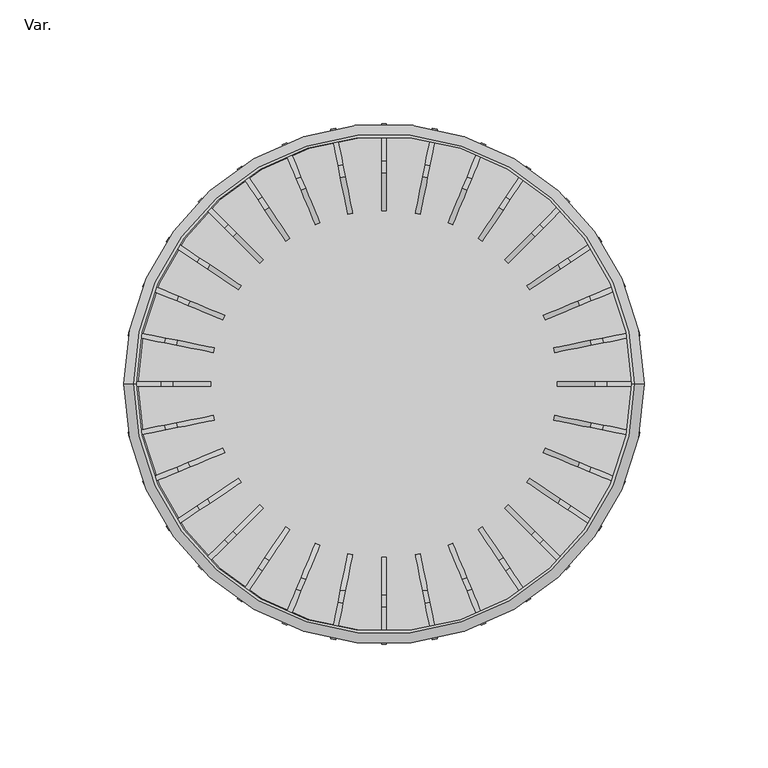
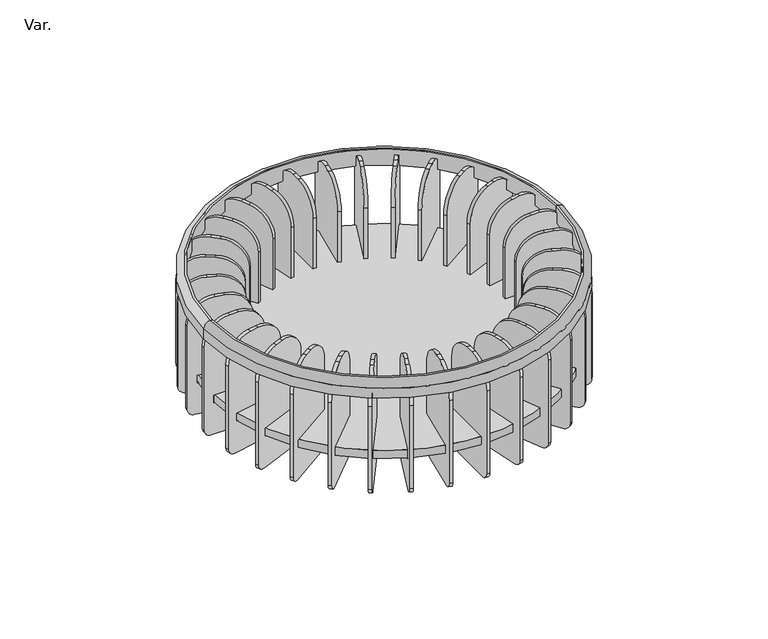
"""IFC4 building model written with IfcOpenShell, lengths in millimetres: sanitary terminal geometry, AmancoWavin_AquipamentosHidráulicos_QSBocaldeCaptação : Var.."""

from ifc_helpers import new_model, si_unit, point, frame, frame_2d, origin, place, context, project, spatial, polyline, circle_curve, ellipse_curve, trimmed, segment, composite_curve, outline, extrude, source, transform, mapped, element, save
from ifc_brep_helpers import plane_surface, cylinder_surface, revolved_surface, advanced_brep


def var_ffde15c7(model_context):
    return source(origin(), model_context, "Body", "SolidModel", [
        extrude(outline(composite_curve([segment(trimmed(circle_curve(frame_2d((0.0, -4.0)), 4.0), [point((-4.0, -4.0))], [point((0.0, 0.0))], False, "CARTESIAN"), True, "CONTINUOUS"), segment(polyline([(0.0, 0.0), (15.0, 0.0), (15.0, -29.9999999), (20.0, -29.9999999), (20.0, 0.0), (51.0, 0.0)]), True, "CONTINUOUS"), segment(trimmed(circle_curve(frame_2d((51.0, -15.0)), 15.0), [point((51.0, 0.0))], [point((66.0, -15.0))], False, "CARTESIAN"), True, "CONTINUOUS"), segment(polyline([(66.0, -15.0), (66.0, -20.0)]), True, "CONTINUOUS"), segment(trimmed(circle_curve(frame_2d((51.0, -20.0)), 15.0), [point((66.0, -20.0))], [point((51.0, -34.9999999))], False, "CARTESIAN"), True, "CONTINUOUS"), segment(polyline([(51.0, -34.9999999), (0.0, -34.9999999)]), True, "CONTINUOUS"), segment(trimmed(circle_curve(frame_2d((0.0, -31.0)), 4.0), [point((0.0, -34.9999999))], [point((-4.0, -31.0))], False, "CARTESIAN"), True, "CONTINUOUS"), segment(polyline([(-4.0, -31.0), (-4.0, -4.0)]), True, "CONTINUOUS")], self_intersect=False)), frame((-50.2045815, 48.7903679, 5.5), z_axis=(0.7071067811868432, 0.7071067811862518, 0.0), x_axis=(0.0, 0.0, 1.0)), (0.0, 0.0, 1.0), 2.0),
        extrude(outline(composite_curve([segment(trimmed(circle_curve(frame_2d((0.0, -3.9999999)), 4.0), [point((-4.0, -3.9999999))], [point((0.0, 0.0))], False, "CARTESIAN"), True, "CONTINUOUS"), segment(polyline([(0.0, 0.0), (15.0, 0.0), (15.0, -30.0), (20.0, -30.0), (20.0, 0.0), (51.0, 0.0)]), True, "CONTINUOUS"), segment(trimmed(circle_curve(frame_2d((51.0, -15.0)), 15.0), [point((51.0, 0.0))], [point((66.0, -15.0))], False, "CARTESIAN"), True, "CONTINUOUS"), segment(polyline([(66.0, -15.0), (66.0, -20.0)]), True, "CONTINUOUS"), segment(trimmed(circle_curve(frame_2d((51.0, -20.0)), 15.0), [point((66.0, -20.0))], [point((51.0, -35.0))], False, "CARTESIAN"), True, "CONTINUOUS"), segment(polyline([(51.0, -35.0), (0.0, -35.0)]), True, "CONTINUOUS"), segment(trimmed(circle_curve(frame_2d((0.0, -31.0)), 4.0), [point((0.0, -35.0))], [point((-4.0, -31.0))], False, "CARTESIAN"), True, "CONTINUOUS"), segment(polyline([(-4.0, -31.0), (-4.0, -3.9999999)]), True, "CONTINUOUS")], self_intersect=False)), frame((-58.7584431, 38.0584467, 5.5), z_axis=(0.5555702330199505, 0.8314696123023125, 0.0), x_axis=(0.0, 0.0, 1.0)), (0.0, 0.0, 1.0), 2.0),
        extrude(outline(composite_curve([segment(trimmed(circle_curve(frame_2d((0.0, -4.0000001)), 4.0), [point((-4.0, -4.0000001))], [point((0.0, 0.0))], False, "CARTESIAN"), True, "CONTINUOUS"), segment(polyline([(0.0, 0.0), (15.0, 0.0), (15.0, -30.0), (20.0, -30.0), (20.0, 0.0), (51.0, 0.0)]), True, "CONTINUOUS"), segment(trimmed(circle_curve(frame_2d((51.0, -15.0)), 15.0), [point((51.0, 0.0))], [point((66.0, -15.0))], False, "CARTESIAN"), True, "CONTINUOUS"), segment(polyline([(66.0, -15.0), (66.0, -20.0000001)]), True, "CONTINUOUS"), segment(trimmed(circle_curve(frame_2d((51.0, -20.0000001)), 15.0), [point((66.0, -20.0000001))], [point((51.0, -35.0000001))], False, "CARTESIAN"), True, "CONTINUOUS"), segment(polyline([(51.0, -35.0000001), (0.0, -35.0000001)]), True, "CONTINUOUS"), segment(trimmed(circle_curve(frame_2d((0.0, -31.0)), 4.0), [point((0.0, -35.0000001))], [point((-4.0, -31.0))], False, "CARTESIAN"), True, "CONTINUOUS"), segment(polyline([(-4.0, -31.0), (-4.0, -4.0000001)]), True, "CONTINUOUS")], self_intersect=False)), frame((-39.7213859, 57.6473026, 5.5), z_axis=(0.8314696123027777, 0.5555702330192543, 0.0), x_axis=(0.0, 0.0, 1.0)), (0.0, 0.0, 1.0), 2.0),
        extrude(outline(composite_curve([segment(trimmed(circle_curve(frame_2d((0.0, -4.0000001)), 4.0), [point((-4.0, -4.0000001))], [point((0.0, 0.0))], False, "CARTESIAN"), True, "CONTINUOUS"), segment(polyline([(0.0, 0.0), (15.0, 0.0), (15.0, -30.0), (20.0, -30.0), (20.0, 0.0), (51.0, 0.0)]), True, "CONTINUOUS"), segment(trimmed(circle_curve(frame_2d((51.0, -15.0)), 15.0), [point((51.0, 0.0))], [point((66.0, -15.0))], False, "CARTESIAN"), True, "CONTINUOUS"), segment(polyline([(66.0, -15.0), (66.0, -20.0)]), True, "CONTINUOUS"), segment(trimmed(circle_curve(frame_2d((51.0, -20.0)), 15.0), [point((66.0, -20.0))], [point((51.0, -35.0))], False, "CARTESIAN"), True, "CONTINUOUS"), segment(polyline([(51.0, -35.0), (0.0, -35.0)]), True, "CONTINUOUS"), segment(trimmed(circle_curve(frame_2d((0.0, -31.0000001)), 4.0), [point((0.0, -35.0))], [point((-4.0, -31.0000001))], False, "CARTESIAN"), True, "CONTINUOUS"), segment(polyline([(-4.0, -31.0000001), (-4.0, -4.0000001)]), True, "CONTINUOUS")], self_intersect=False)), frame((-27.7117198, 64.2888838, 5.5), z_axis=(0.9238795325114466, 0.3826834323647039, 0.0), x_axis=(0.0, 0.0, 1.0)), (0.0, 0.0, 1.0), 2.0),
        extrude(outline(composite_curve([segment(trimmed(circle_curve(frame_2d((0.0, -4.0)), 4.0), [point((-4.0, -4.0))], [point((0.0, 0.0))], False, "CARTESIAN"), True, "CONTINUOUS"), segment(polyline([(0.0, 0.0), (15.0, 0.0), (15.0, -30.0), (20.0, -30.0), (20.0, 0.0), (51.0, 0.0)]), True, "CONTINUOUS"), segment(trimmed(circle_curve(frame_2d((51.0, -15.0)), 15.0), [point((51.0, 0.0))], [point((66.0, -15.0))], False, "CARTESIAN"), True, "CONTINUOUS"), segment(polyline([(66.0, -15.0), (66.0, -20.0)]), True, "CONTINUOUS"), segment(trimmed(circle_curve(frame_2d((51.0, -20.0)), 15.0), [point((66.0, -20.0))], [point((51.0, -35.0))], False, "CARTESIAN"), True, "CONTINUOUS"), segment(polyline([(51.0, -35.0), (0.0, -35.0)]), True, "CONTINUOUS"), segment(trimmed(circle_curve(frame_2d((0.0, -31.0)), 4.0), [point((0.0, -35.0))], [point((-4.0, -31.0))], False, "CARTESIAN"), True, "CONTINUOUS"), segment(polyline([(-4.0, -31.0), (-4.0, -4.0)]), True, "CONTINUOUS")], self_intersect=False)), frame((-14.6371078, 68.4598793, 5.5), z_axis=(0.980785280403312, 0.19509032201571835, 0.0), x_axis=(0.0, 0.0, 1.0)), (0.0, 0.0, 1.0), 2.0),
        extrude(outline(composite_curve([segment(trimmed(circle_curve(frame_2d((74.0, 5.5)), 4.0), [point((74.0, 1.5))], [point((70.0, 5.5))], False, "CARTESIAN"), True, "CONTINUOUS"), segment(polyline([(70.0, 5.5), (70.0, 20.5), (100.0, 20.5), (100.0, 25.5), (70.0, 25.5), (70.0, 56.5)]), True, "CONTINUOUS"), segment(trimmed(circle_curve(frame_2d((85.0, 56.5)), 15.0), [point((70.0, 56.5))], [point((85.0, 71.5))], False, "CARTESIAN"), True, "CONTINUOUS"), segment(polyline([(85.0, 71.5), (90.0, 71.5)]), True, "CONTINUOUS"), segment(trimmed(circle_curve(frame_2d((90.0, 56.5)), 15.0), [point((90.0, 71.5))], [point((105.0, 56.5))], False, "CARTESIAN"), True, "CONTINUOUS"), segment(polyline([(105.0, 56.5), (105.0, 5.5)]), True, "CONTINUOUS"), segment(trimmed(circle_curve(frame_2d((101.0, 5.5)), 4.0), [point((105.0, 5.5))], [point((101.0, 1.5))], False, "CARTESIAN"), True, "CONTINUOUS"), segment(polyline([(101.0, 1.5), (74.0, 1.5)]), True, "CONTINUOUS")], self_intersect=False)), frame((-1.0, 0.0, 0.0), z_axis=(1.0, 0.0, 0.0), x_axis=(0.0, 1.0, 0.0)), (0.0, 0.0, 1.0), 2.0),
        extrude(outline(composite_curve([segment(polyline([(4.0, -4.0), (4.0, -31.0)]), True, "CONTINUOUS"), segment(trimmed(circle_curve(frame_2d((0.0, -31.0)), 4.0), [point((4.0, -31.0))], [point((0.0, -35.0))], False, "CARTESIAN"), True, "CONTINUOUS"), segment(polyline([(0.0, -35.0), (-51.0, -35.0)]), True, "CONTINUOUS"), segment(trimmed(circle_curve(frame_2d((-51.0, -20.0)), 15.0), [point((-51.0, -35.0))], [point((-66.0, -20.0))], False, "CARTESIAN"), True, "CONTINUOUS"), segment(polyline([(-66.0, -20.0), (-66.0, -15.0)]), True, "CONTINUOUS"), segment(trimmed(circle_curve(frame_2d((-51.0, -15.0)), 15.0), [point((-66.0, -15.0))], [point((-51.0, 0.0))], False, "CARTESIAN"), True, "CONTINUOUS"), segment(polyline([(-51.0, 0.0), (-20.0, 0.0), (-20.0, -30.0), (-15.0, -30.0), (-15.0, 0.0), (0.0, 0.0)]), True, "CONTINUOUS"), segment(trimmed(circle_curve(frame_2d((0.0, -4.0)), 4.0), [point((0.0, 0.0))], [point((4.0, -4.0))], False, "CARTESIAN"), True, "CONTINUOUS")], self_intersect=False)), frame((14.6371078, 68.4598793, 5.5), z_axis=(-0.9807852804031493, 0.19509032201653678, 0.0), x_axis=(0.0, 0.0, -1.0)), (0.0, 0.0, 1.0), 2.0),
        extrude(outline(composite_curve([segment(polyline([(4.0, -4.0000001), (4.0, -31.0000001)]), True, "CONTINUOUS"), segment(trimmed(circle_curve(frame_2d((0.0, -31.0000001)), 4.0), [point((4.0, -31.0000001))], [point((0.0, -35.0))], False, "CARTESIAN"), True, "CONTINUOUS"), segment(polyline([(0.0, -35.0), (-51.0, -35.0)]), True, "CONTINUOUS"), segment(trimmed(circle_curve(frame_2d((-51.0, -20.0)), 15.0), [point((-51.0, -35.0))], [point((-66.0, -20.0))], False, "CARTESIAN"), True, "CONTINUOUS"), segment(polyline([(-66.0, -20.0), (-66.0, -15.0)]), True, "CONTINUOUS"), segment(trimmed(circle_curve(frame_2d((-51.0, -15.0)), 15.0), [point((-66.0, -15.0))], [point((-51.0, 0.0))], False, "CARTESIAN"), True, "CONTINUOUS"), segment(polyline([(-51.0, 0.0), (-20.0, 0.0), (-20.0, -30.0), (-15.0, -30.0), (-15.0, 0.0), (0.0, 0.0)]), True, "CONTINUOUS"), segment(trimmed(circle_curve(frame_2d((0.0, -4.0000001)), 4.0), [point((0.0, 0.0))], [point((4.0, -4.0000001))], False, "CARTESIAN"), True, "CONTINUOUS")], self_intersect=False)), frame((27.7117198, 64.2888838, 5.5), z_axis=(-0.9238795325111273, 0.38268343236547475, 0.0), x_axis=(0.0, 0.0, -1.0)), (0.0, 0.0, 1.0), 2.0),
        extrude(outline(composite_curve([segment(polyline([(4.0, -4.0000001), (4.0, -31.0)]), True, "CONTINUOUS"), segment(trimmed(circle_curve(frame_2d((0.0, -31.0)), 4.0), [point((4.0, -31.0))], [point((0.0, -35.0000001))], False, "CARTESIAN"), True, "CONTINUOUS"), segment(polyline([(0.0, -35.0000001), (-51.0, -35.0000001)]), True, "CONTINUOUS"), segment(trimmed(circle_curve(frame_2d((-51.0, -20.0000001)), 15.0), [point((-51.0, -35.0000001))], [point((-66.0, -20.0000001))], False, "CARTESIAN"), True, "CONTINUOUS"), segment(polyline([(-66.0, -20.0000001), (-66.0, -15.0)]), True, "CONTINUOUS"), segment(trimmed(circle_curve(frame_2d((-51.0, -15.0)), 15.0), [point((-66.0, -15.0))], [point((-51.0, 0.0))], False, "CARTESIAN"), True, "CONTINUOUS"), segment(polyline([(-51.0, 0.0), (-20.0, 0.0), (-20.0, -30.0), (-15.0, -30.0), (-15.0, 0.0), (0.0, 0.0)]), True, "CONTINUOUS"), segment(trimmed(circle_curve(frame_2d((0.0, -4.0000001)), 4.0), [point((0.0, 0.0))], [point((4.0, -4.0000001))], False, "CARTESIAN"), True, "CONTINUOUS")], self_intersect=False)), frame((39.7213859, 57.6473026, 5.5), z_axis=(-0.8314696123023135, 0.5555702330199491, 0.0), x_axis=(0.0, 0.0, -1.0)), (0.0, 0.0, 1.0), 2.0),
        extrude(outline(composite_curve([segment(polyline([(4.0, -4.0), (4.0, -31.0)]), True, "CONTINUOUS"), segment(trimmed(circle_curve(frame_2d((0.0, -31.0)), 4.0), [point((4.0, -31.0))], [point((0.0, -34.9999999))], False, "CARTESIAN"), True, "CONTINUOUS"), segment(polyline([(0.0, -34.9999999), (-51.0, -34.9999999)]), True, "CONTINUOUS"), segment(trimmed(circle_curve(frame_2d((-51.0, -20.0)), 15.0), [point((-51.0, -34.9999999))], [point((-66.0, -20.0))], False, "CARTESIAN"), True, "CONTINUOUS"), segment(polyline([(-66.0, -20.0), (-66.0, -15.0)]), True, "CONTINUOUS"), segment(trimmed(circle_curve(frame_2d((-51.0, -15.0)), 15.0), [point((-66.0, -15.0))], [point((-51.0, 0.0))], False, "CARTESIAN"), True, "CONTINUOUS"), segment(polyline([(-51.0, 0.0), (-20.0, 0.0), (-20.0, -29.9999999), (-15.0, -29.9999999), (-15.0, 0.0), (0.0, 0.0)]), True, "CONTINUOUS"), segment(trimmed(circle_curve(frame_2d((0.0, -4.0)), 4.0), [point((0.0, 0.0))], [point((4.0, -4.0))], False, "CARTESIAN"), True, "CONTINUOUS")], self_intersect=False)), frame((50.2045815, 48.7903679, 5.5), z_axis=(-0.7071067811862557, 0.7071067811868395, 0.0), x_axis=(0.0, 0.0, -1.0)), (0.0, 0.0, 1.0), 2.0),
        extrude(outline(composite_curve([segment(polyline([(4.0, -3.9999999), (4.0, -31.0)]), True, "CONTINUOUS"), segment(trimmed(circle_curve(frame_2d((0.0, -31.0)), 4.0), [point((4.0, -31.0))], [point((0.0, -35.0))], False, "CARTESIAN"), True, "CONTINUOUS"), segment(polyline([(0.0, -35.0), (-51.0, -35.0)]), True, "CONTINUOUS"), segment(trimmed(circle_curve(frame_2d((-51.0, -20.0)), 15.0), [point((-51.0, -35.0))], [point((-66.0, -20.0))], False, "CARTESIAN"), True, "CONTINUOUS"), segment(polyline([(-66.0, -20.0), (-66.0, -15.0)]), True, "CONTINUOUS"), segment(trimmed(circle_curve(frame_2d((-51.0, -15.0)), 15.0), [point((-66.0, -15.0))], [point((-51.0, 0.0))], False, "CARTESIAN"), True, "CONTINUOUS"), segment(polyline([(-51.0, 0.0), (-20.0, 0.0), (-20.0, -30.0), (-15.0, -30.0), (-15.0, 0.0), (0.0, 0.0)]), True, "CONTINUOUS"), segment(trimmed(circle_curve(frame_2d((0.0, -3.9999999)), 4.0), [point((0.0, 0.0))], [point((4.0, -3.9999999))], False, "CARTESIAN"), True, "CONTINUOUS")], self_intersect=False)), frame((58.7584431, 38.0584467, 5.5), z_axis=(-0.5555702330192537, 0.8314696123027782, 0.0), x_axis=(0.0, 0.0, -1.0)), (0.0, 0.0, 1.0), 2.0),
        extrude(outline(composite_curve([segment(polyline([(4.0, -4.0), (4.0, -31.0)]), True, "CONTINUOUS"), segment(trimmed(circle_curve(frame_2d((0.0, -31.0)), 4.0), [point((4.0, -31.0))], [point((0.0, -35.0))], False, "CARTESIAN"), True, "CONTINUOUS"), segment(polyline([(0.0, -35.0), (-51.0, -35.0)]), True, "CONTINUOUS"), segment(trimmed(circle_curve(frame_2d((-51.0, -20.0000001)), 15.0), [point((-51.0, -35.0))], [point((-66.0, -20.0000001))], False, "CARTESIAN"), True, "CONTINUOUS"), segment(polyline([(-66.0, -20.0000001), (-66.0, -15.0)]), True, "CONTINUOUS"), segment(trimmed(circle_curve(frame_2d((-51.0, -15.0)), 15.0), [point((-66.0, -15.0))], [point((-51.0, 0.0))], False, "CARTESIAN"), True, "CONTINUOUS"), segment(polyline([(-51.0, 0.0), (-20.0, 0.0), (-20.0, -30.0), (-15.0, -30.0), (-15.0, 0.0), (0.0, 0.0)]), True, "CONTINUOUS"), segment(trimmed(circle_curve(frame_2d((0.0, -4.0)), 4.0), [point((0.0, 0.0))], [point((4.0, -4.0))], False, "CARTESIAN"), True, "CONTINUOUS")], self_intersect=False)), frame((65.0542507, 25.8639607, 5.5), z_axis=(-0.38268343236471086, 0.9238795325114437, 0.0), x_axis=(0.0, 0.0, -1.0)), (0.0, 0.0, 1.0), 2.0),
        extrude(outline(composite_curve([segment(polyline([(4.0, -4.0), (4.0, -30.9999999)]), True, "CONTINUOUS"), segment(trimmed(circle_curve(frame_2d((0.0, -30.9999999)), 4.0), [point((4.0, -30.9999999))], [point((0.0, -35.0))], False, "CARTESIAN"), True, "CONTINUOUS"), segment(polyline([(0.0, -35.0), (-51.0, -35.0)]), True, "CONTINUOUS"), segment(trimmed(circle_curve(frame_2d((-51.0, -20.0)), 15.0), [point((-51.0, -35.0))], [point((-66.0, -20.0))], False, "CARTESIAN"), True, "CONTINUOUS"), segment(polyline([(-66.0, -20.0), (-66.0, -15.0)]), True, "CONTINUOUS"), segment(trimmed(circle_curve(frame_2d((-51.0, -15.0)), 15.0), [point((-66.0, -15.0))], [point((-51.0, 0.0))], False, "CARTESIAN"), True, "CONTINUOUS"), segment(polyline([(-51.0, 0.0), (-20.0, 0.0), (-20.0, -30.0), (-15.0, -30.0), (-15.0, 0.0), (0.0, 0.0)]), True, "CONTINUOUS"), segment(trimmed(circle_curve(frame_2d((0.0, -4.0)), 4.0), [point((0.0, 0.0))], [point((4.0, -4.0))], False, "CARTESIAN"), True, "CONTINUOUS")], self_intersect=False)), frame((68.85006, 12.6755373, 5.5), z_axis=(-0.19509032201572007, 0.9807852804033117, 0.0), x_axis=(0.0, 0.0, -1.0)), (0.0, 0.0, 1.0), 2.0),
        extrude(outline(composite_curve([segment(polyline([(1.5, 74.0), (1.5, 101.0)]), True, "CONTINUOUS"), segment(trimmed(circle_curve(frame_2d((5.5, 101.0)), 4.0), [point((1.5, 101.0))], [point((5.5, 105.0))], False, "CARTESIAN"), True, "CONTINUOUS"), segment(polyline([(5.5, 105.0), (56.5, 105.0)]), True, "CONTINUOUS"), segment(trimmed(circle_curve(frame_2d((56.5, 90.0)), 15.0), [point((56.5, 105.0))], [point((71.5, 90.0))], False, "CARTESIAN"), True, "CONTINUOUS"), segment(polyline([(71.5, 90.0), (71.5, 85.0)]), True, "CONTINUOUS"), segment(trimmed(circle_curve(frame_2d((56.5, 85.0)), 15.0), [point((71.5, 85.0))], [point((56.5, 70.0))], False, "CARTESIAN"), True, "CONTINUOUS"), segment(polyline([(56.5, 70.0), (25.5, 70.0), (25.5, 100.0), (20.5, 100.0), (20.5, 70.0), (5.5, 70.0)]), True, "CONTINUOUS"), segment(trimmed(circle_curve(frame_2d((5.5, 74.0)), 4.0), [point((5.5, 70.0))], [point((1.5, 74.0))], False, "CARTESIAN"), True, "CONTINUOUS")], self_intersect=False)), frame((0.0, -1.0, 0.0), z_axis=(0.0, 1.0, 0.0), x_axis=(0.0, 0.0, 1.0)), (0.0, 0.0, 1.0), 2.0),
        extrude(outline(composite_curve([segment(polyline([(4.0, -4.0), (4.0, -31.0)]), True, "CONTINUOUS"), segment(trimmed(circle_curve(frame_2d((0.0, -31.0)), 4.0), [point((4.0, -31.0))], [point((0.0, -35.0))], False, "CARTESIAN"), True, "CONTINUOUS"), segment(polyline([(0.0, -35.0), (-51.0, -35.0)]), True, "CONTINUOUS"), segment(trimmed(circle_curve(frame_2d((-51.0, -20.0)), 15.0), [point((-51.0, -35.0))], [point((-66.0, -20.0))], False, "CARTESIAN"), True, "CONTINUOUS"), segment(polyline([(-66.0, -20.0), (-66.0, -15.0)]), True, "CONTINUOUS"), segment(trimmed(circle_curve(frame_2d((-51.0, -15.0)), 15.0), [point((-66.0, -15.0))], [point((-51.0, 0.0))], False, "CARTESIAN"), True, "CONTINUOUS"), segment(polyline([(-51.0, 0.0), (-20.0, 0.0), (-20.0, -30.0), (-15.0, -30.0), (-15.0, 0.0), (0.0, 0.0)]), True, "CONTINUOUS"), segment(trimmed(circle_curve(frame_2d((0.0, -4.0)), 4.0), [point((0.0, 0.0))], [point((4.0, -4.0))], False, "CARTESIAN"), True, "CONTINUOUS")], self_intersect=False)), frame((68.4598793, -14.6371078, 5.5), z_axis=(0.19509032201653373, 0.9807852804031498, 0.0), x_axis=(0.0, 0.0, -1.0)), (0.0, 0.0, 1.0), 2.0),
        extrude(outline(composite_curve([segment(polyline([(4.0, -4.0000001), (4.0, -31.0000001)]), True, "CONTINUOUS"), segment(trimmed(circle_curve(frame_2d((0.0, -31.0000001)), 4.0), [point((4.0, -31.0000001))], [point((0.0, -35.0))], False, "CARTESIAN"), True, "CONTINUOUS"), segment(polyline([(0.0, -35.0), (-51.0, -35.0)]), True, "CONTINUOUS"), segment(trimmed(circle_curve(frame_2d((-51.0, -20.0)), 15.0), [point((-51.0, -35.0))], [point((-66.0, -20.0))], False, "CARTESIAN"), True, "CONTINUOUS"), segment(polyline([(-66.0, -20.0), (-66.0, -15.0)]), True, "CONTINUOUS"), segment(trimmed(circle_curve(frame_2d((-51.0, -15.0)), 15.0), [point((-66.0, -15.0))], [point((-51.0, 0.0))], False, "CARTESIAN"), True, "CONTINUOUS"), segment(polyline([(-51.0, 0.0), (-20.0, 0.0), (-20.0, -30.0), (-15.0, -30.0), (-15.0, 0.0), (0.0, 0.0)]), True, "CONTINUOUS"), segment(trimmed(circle_curve(frame_2d((0.0, -4.0000001)), 4.0), [point((0.0, 0.0))], [point((4.0, -4.0000001))], False, "CARTESIAN"), True, "CONTINUOUS")], self_intersect=False)), frame((64.2888838, -27.7117198, 5.5), z_axis=(0.3826834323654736, 0.9238795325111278, 0.0), x_axis=(0.0, 0.0, -1.0)), (0.0, 0.0, 1.0), 2.0),
        extrude(outline(composite_curve([segment(polyline([(4.0, -4.0000001), (4.0, -31.0)]), True, "CONTINUOUS"), segment(trimmed(circle_curve(frame_2d((0.0, -31.0)), 4.0), [point((4.0, -31.0))], [point((0.0, -35.0000001))], False, "CARTESIAN"), True, "CONTINUOUS"), segment(polyline([(0.0, -35.0000001), (-51.0, -35.0000001)]), True, "CONTINUOUS"), segment(trimmed(circle_curve(frame_2d((-51.0, -20.0000001)), 15.0), [point((-51.0, -35.0000001))], [point((-66.0, -20.0000001))], False, "CARTESIAN"), True, "CONTINUOUS"), segment(polyline([(-66.0, -20.0000001), (-66.0, -15.0)]), True, "CONTINUOUS"), segment(trimmed(circle_curve(frame_2d((-51.0, -15.0)), 15.0), [point((-66.0, -15.0))], [point((-51.0, 0.0))], False, "CARTESIAN"), True, "CONTINUOUS"), segment(polyline([(-51.0, 0.0), (-20.0, 0.0), (-20.0, -30.0), (-15.0, -30.0), (-15.0, 0.0), (0.0, 0.0)]), True, "CONTINUOUS"), segment(trimmed(circle_curve(frame_2d((0.0, -4.0000001)), 4.0), [point((0.0, 0.0))], [point((4.0, -4.0000001))], False, "CARTESIAN"), True, "CONTINUOUS")], self_intersect=False)), frame((57.6473026, -39.7213859, 5.5), z_axis=(0.5555702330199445, 0.8314696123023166, 0.0), x_axis=(0.0, 0.0, -1.0)), (0.0, 0.0, 1.0), 2.0),
        extrude(outline(composite_curve([segment(polyline([(4.0, -4.0), (4.0, -31.0)]), True, "CONTINUOUS"), segment(trimmed(circle_curve(frame_2d((0.0, -31.0)), 4.0), [point((4.0, -31.0))], [point((0.0, -34.9999999))], False, "CARTESIAN"), True, "CONTINUOUS"), segment(polyline([(0.0, -34.9999999), (-51.0, -34.9999999)]), True, "CONTINUOUS"), segment(trimmed(circle_curve(frame_2d((-51.0, -20.0)), 15.0), [point((-51.0, -34.9999999))], [point((-66.0, -20.0))], False, "CARTESIAN"), True, "CONTINUOUS"), segment(polyline([(-66.0, -20.0), (-66.0, -15.0)]), True, "CONTINUOUS"), segment(trimmed(circle_curve(frame_2d((-51.0, -15.0)), 15.0), [point((-66.0, -15.0))], [point((-51.0, 0.0))], False, "CARTESIAN"), True, "CONTINUOUS"), segment(polyline([(-51.0, 0.0), (-20.0, 0.0), (-20.0, -29.9999999), (-15.0, -29.9999999), (-15.0, 0.0), (0.0, 0.0)]), True, "CONTINUOUS"), segment(trimmed(circle_curve(frame_2d((0.0, -4.0)), 4.0), [point((0.0, 0.0))], [point((4.0, -4.0))], False, "CARTESIAN"), True, "CONTINUOUS")], self_intersect=False)), frame((48.7903679, -50.2045815, 5.5), z_axis=(0.7071067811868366, 0.7071067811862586, 0.0), x_axis=(0.0, 0.0, -1.0)), (0.0, 0.0, 1.0), 2.0),
        extrude(outline(composite_curve([segment(polyline([(4.0, -3.9999999), (4.0, -31.0)]), True, "CONTINUOUS"), segment(trimmed(circle_curve(frame_2d((0.0, -31.0)), 4.0), [point((4.0, -31.0))], [point((0.0, -35.0))], False, "CARTESIAN"), True, "CONTINUOUS"), segment(polyline([(0.0, -35.0), (-51.0, -35.0)]), True, "CONTINUOUS"), segment(trimmed(circle_curve(frame_2d((-51.0, -20.0)), 15.0), [point((-51.0, -35.0))], [point((-66.0, -20.0))], False, "CARTESIAN"), True, "CONTINUOUS"), segment(polyline([(-66.0, -20.0), (-66.0, -15.0)]), True, "CONTINUOUS"), segment(trimmed(circle_curve(frame_2d((-51.0, -15.0)), 15.0), [point((-66.0, -15.0))], [point((-51.0, 0.0))], False, "CARTESIAN"), True, "CONTINUOUS"), segment(polyline([(-51.0, 0.0), (-20.0, 0.0), (-20.0, -30.0), (-15.0, -30.0), (-15.0, 0.0), (0.0, 0.0)]), True, "CONTINUOUS"), segment(trimmed(circle_curve(frame_2d((0.0, -3.9999999)), 4.0), [point((0.0, 0.0))], [point((4.0, -3.9999999))], False, "CARTESIAN"), True, "CONTINUOUS")], self_intersect=False)), frame((38.0584467, -58.7584431, 5.5), z_axis=(0.8314696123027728, 0.5555702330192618, 0.0), x_axis=(0.0, 0.0, -1.0)), (0.0, 0.0, 1.0), 2.0),
        extrude(outline(composite_curve([segment(polyline([(4.0, -4.0), (4.0, -31.0)]), True, "CONTINUOUS"), segment(trimmed(circle_curve(frame_2d((0.0, -31.0)), 4.0), [point((4.0, -31.0))], [point((0.0, -35.0))], False, "CARTESIAN"), True, "CONTINUOUS"), segment(polyline([(0.0, -35.0), (-51.0, -35.0)]), True, "CONTINUOUS"), segment(trimmed(circle_curve(frame_2d((-51.0, -20.0000001)), 15.0), [point((-51.0, -35.0))], [point((-66.0, -20.0000001))], False, "CARTESIAN"), True, "CONTINUOUS"), segment(polyline([(-66.0, -20.0000001), (-66.0, -15.0)]), True, "CONTINUOUS"), segment(trimmed(circle_curve(frame_2d((-51.0, -15.0)), 15.0), [point((-66.0, -15.0))], [point((-51.0, 0.0))], False, "CARTESIAN"), True, "CONTINUOUS"), segment(polyline([(-51.0, 0.0), (-20.0, 0.0), (-20.0, -30.0), (-15.0, -30.0), (-15.0, 0.0), (0.0, 0.0)]), True, "CONTINUOUS"), segment(trimmed(circle_curve(frame_2d((0.0, -4.0)), 4.0), [point((0.0, 0.0))], [point((4.0, -4.0))], False, "CARTESIAN"), True, "CONTINUOUS")], self_intersect=False)), frame((25.8639607, -65.0542507, 5.5), z_axis=(0.9238795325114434, 0.38268343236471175, 0.0), x_axis=(0.0, 0.0, -1.0)), (0.0, 0.0, 1.0), 2.0),
        extrude(outline(composite_curve([segment(polyline([(4.0, -4.0), (4.0, -30.9999999)]), True, "CONTINUOUS"), segment(trimmed(circle_curve(frame_2d((0.0, -30.9999999)), 4.0), [point((4.0, -30.9999999))], [point((0.0, -35.0))], False, "CARTESIAN"), True, "CONTINUOUS"), segment(polyline([(0.0, -35.0), (-51.0, -35.0)]), True, "CONTINUOUS"), segment(trimmed(circle_curve(frame_2d((-51.0, -20.0)), 15.0), [point((-51.0, -35.0))], [point((-66.0, -20.0))], False, "CARTESIAN"), True, "CONTINUOUS"), segment(polyline([(-66.0, -20.0), (-66.0, -15.0)]), True, "CONTINUOUS"), segment(trimmed(circle_curve(frame_2d((-51.0, -15.0)), 15.0), [point((-66.0, -15.0))], [point((-51.0, 0.0))], False, "CARTESIAN"), True, "CONTINUOUS"), segment(polyline([(-51.0, 0.0), (-20.0, 0.0), (-20.0, -30.0), (-15.0, -30.0), (-15.0, 0.0), (0.0, 0.0)]), True, "CONTINUOUS"), segment(trimmed(circle_curve(frame_2d((0.0, -4.0)), 4.0), [point((0.0, 0.0))], [point((4.0, -4.0))], False, "CARTESIAN"), True, "CONTINUOUS")], self_intersect=False)), frame((12.6755373, -68.85006, 5.5), z_axis=(0.9807852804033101, 0.1950903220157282, 0.0), x_axis=(0.0, 0.0, -1.0)), (0.0, 0.0, 1.0), 2.0),
        extrude(outline(composite_curve([segment(polyline([(-74.0, 1.5), (-101.0, 1.5)]), True, "CONTINUOUS"), segment(trimmed(circle_curve(frame_2d((-101.0, 5.5)), 4.0), [point((-101.0, 1.5))], [point((-105.0, 5.5))], False, "CARTESIAN"), True, "CONTINUOUS"), segment(polyline([(-105.0, 5.5), (-105.0, 56.5)]), True, "CONTINUOUS"), segment(trimmed(circle_curve(frame_2d((-90.0, 56.5)), 15.0), [point((-105.0, 56.5))], [point((-90.0, 71.5))], False, "CARTESIAN"), True, "CONTINUOUS"), segment(polyline([(-90.0, 71.5), (-85.0, 71.5)]), True, "CONTINUOUS"), segment(trimmed(circle_curve(frame_2d((-85.0, 56.5)), 15.0), [point((-85.0, 71.5))], [point((-70.0, 56.5))], False, "CARTESIAN"), True, "CONTINUOUS"), segment(polyline([(-70.0, 56.5), (-70.0, 25.5), (-100.0, 25.5), (-100.0, 20.5), (-70.0, 20.5), (-70.0, 5.5)]), True, "CONTINUOUS"), segment(trimmed(circle_curve(frame_2d((-74.0, 5.5)), 4.0), [point((-70.0, 5.5))], [point((-74.0, 1.5))], False, "CARTESIAN"), True, "CONTINUOUS")], self_intersect=False)), frame((-1.0, 0.0, 0.0), z_axis=(1.0, 0.0, 0.0), x_axis=(0.0, 1.0, 0.0)), (0.0, 0.0, 1.0), 2.0),
        extrude(outline(composite_curve([segment(trimmed(circle_curve(frame_2d((0.0, -4.0)), 4.0), [point((-4.0, -4.0))], [point((0.0, 0.0))], False, "CARTESIAN"), True, "CONTINUOUS"), segment(polyline([(0.0, 0.0), (15.0, 0.0), (15.0, -30.0), (20.0, -30.0), (20.0, 0.0), (51.0, 0.0)]), True, "CONTINUOUS"), segment(trimmed(circle_curve(frame_2d((51.0, -15.0)), 15.0), [point((51.0, 0.0))], [point((66.0, -15.0))], False, "CARTESIAN"), True, "CONTINUOUS"), segment(polyline([(66.0, -15.0), (66.0, -20.0)]), True, "CONTINUOUS"), segment(trimmed(circle_curve(frame_2d((51.0, -20.0)), 15.0), [point((66.0, -20.0))], [point((51.0, -35.0))], False, "CARTESIAN"), True, "CONTINUOUS"), segment(polyline([(51.0, -35.0), (0.0, -35.0)]), True, "CONTINUOUS"), segment(trimmed(circle_curve(frame_2d((0.0, -30.9999999)), 4.0), [point((0.0, -35.0))], [point((-4.0, -30.9999999))], False, "CARTESIAN"), True, "CONTINUOUS"), segment(polyline([(-4.0, -30.9999999), (-4.0, -4.0)]), True, "CONTINUOUS")], self_intersect=False)), frame((-12.6755373, -68.85006, 5.5), z_axis=(-0.9807852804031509, 0.19509032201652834, 0.0), x_axis=(0.0, 0.0, 1.0)), (0.0, 0.0, 1.0), 2.0),
        extrude(outline(composite_curve([segment(trimmed(circle_curve(frame_2d((0.0, -4.0)), 4.0), [point((-4.0, -4.0))], [point((0.0, 0.0))], False, "CARTESIAN"), True, "CONTINUOUS"), segment(polyline([(0.0, 0.0), (15.0, 0.0), (15.0, -30.0), (20.0, -30.0), (20.0, 0.0), (51.0, 0.0)]), True, "CONTINUOUS"), segment(trimmed(circle_curve(frame_2d((51.0, -15.0)), 15.0), [point((51.0, 0.0))], [point((66.0, -15.0))], False, "CARTESIAN"), True, "CONTINUOUS"), segment(polyline([(66.0, -15.0), (66.0, -20.0000001)]), True, "CONTINUOUS"), segment(trimmed(circle_curve(frame_2d((51.0, -20.0000001)), 15.0), [point((66.0, -20.0000001))], [point((51.0, -35.0))], False, "CARTESIAN"), True, "CONTINUOUS"), segment(polyline([(51.0, -35.0), (0.0, -35.0)]), True, "CONTINUOUS"), segment(trimmed(circle_curve(frame_2d((0.0, -31.0)), 4.0), [point((0.0, -35.0))], [point((-4.0, -31.0))], False, "CARTESIAN"), True, "CONTINUOUS"), segment(polyline([(-4.0, -31.0), (-4.0, -4.0)]), True, "CONTINUOUS")], self_intersect=False)), frame((-25.8639607, -65.0542507, 5.5), z_axis=(-0.9238795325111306, 0.3826834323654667, 0.0), x_axis=(0.0, 0.0, 1.0)), (0.0, 0.0, 1.0), 2.0),
        extrude(outline(composite_curve([segment(trimmed(circle_curve(frame_2d((0.0, -3.9999999)), 4.0), [point((-4.0, -3.9999999))], [point((0.0, 0.0))], False, "CARTESIAN"), True, "CONTINUOUS"), segment(polyline([(0.0, 0.0), (15.0, 0.0), (15.0, -30.0), (20.0, -30.0), (20.0, 0.0), (51.0, 0.0)]), True, "CONTINUOUS"), segment(trimmed(circle_curve(frame_2d((51.0, -15.0)), 15.0), [point((51.0, 0.0))], [point((66.0, -15.0))], False, "CARTESIAN"), True, "CONTINUOUS"), segment(polyline([(66.0, -15.0), (66.0, -20.0)]), True, "CONTINUOUS"), segment(trimmed(circle_curve(frame_2d((51.0, -20.0)), 15.0), [point((66.0, -20.0))], [point((51.0, -35.0))], False, "CARTESIAN"), True, "CONTINUOUS"), segment(polyline([(51.0, -35.0), (0.0, -35.0)]), True, "CONTINUOUS"), segment(trimmed(circle_curve(frame_2d((0.0, -31.0)), 4.0), [point((0.0, -35.0))], [point((-4.0, -31.0))], False, "CARTESIAN"), True, "CONTINUOUS"), segment(polyline([(-4.0, -31.0), (-4.0, -3.9999999)]), True, "CONTINUOUS")], self_intersect=False)), frame((-38.0584467, -58.7584431, 5.5), z_axis=(-0.8314696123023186, 0.5555702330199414, 0.0), x_axis=(0.0, 0.0, 1.0)), (0.0, 0.0, 1.0), 2.0),
        extrude(outline(composite_curve([segment(trimmed(circle_curve(frame_2d((0.0, -4.0)), 4.0), [point((-4.0, -4.0))], [point((0.0, 0.0))], False, "CARTESIAN"), True, "CONTINUOUS"), segment(polyline([(0.0, 0.0), (15.0, 0.0), (15.0, -29.9999999), (20.0, -29.9999999), (20.0, 0.0), (51.0, 0.0)]), True, "CONTINUOUS"), segment(trimmed(circle_curve(frame_2d((51.0, -15.0)), 15.0), [point((51.0, 0.0))], [point((66.0, -15.0))], False, "CARTESIAN"), True, "CONTINUOUS"), segment(polyline([(66.0, -15.0), (66.0, -20.0)]), True, "CONTINUOUS"), segment(trimmed(circle_curve(frame_2d((51.0, -20.0)), 15.0), [point((66.0, -20.0))], [point((51.0, -34.9999999))], False, "CARTESIAN"), True, "CONTINUOUS"), segment(polyline([(51.0, -34.9999999), (0.0, -34.9999999)]), True, "CONTINUOUS"), segment(trimmed(circle_curve(frame_2d((0.0, -31.0)), 4.0), [point((0.0, -34.9999999))], [point((-4.0, -31.0))], False, "CARTESIAN"), True, "CONTINUOUS"), segment(polyline([(-4.0, -31.0), (-4.0, -4.0)]), True, "CONTINUOUS")], self_intersect=False)), frame((-48.7903679, -50.2045815, 5.5), z_axis=(-0.7071067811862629, 0.7071067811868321, 0.0), x_axis=(0.0, 0.0, 1.0)), (0.0, 0.0, 1.0), 2.0),
        extrude(outline(composite_curve([segment(trimmed(circle_curve(frame_2d((0.0, -4.0000001)), 4.0), [point((-4.0, -4.0000001))], [point((0.0, 0.0))], False, "CARTESIAN"), True, "CONTINUOUS"), segment(polyline([(0.0, 0.0), (15.0, 0.0), (15.0, -30.0), (20.0, -30.0), (20.0, 0.0), (51.0, 0.0)]), True, "CONTINUOUS"), segment(trimmed(circle_curve(frame_2d((51.0, -15.0)), 15.0), [point((51.0, 0.0))], [point((66.0, -15.0))], False, "CARTESIAN"), True, "CONTINUOUS"), segment(polyline([(66.0, -15.0), (66.0, -20.0000001)]), True, "CONTINUOUS"), segment(trimmed(circle_curve(frame_2d((51.0, -20.0000001)), 15.0), [point((66.0, -20.0000001))], [point((51.0, -35.0000001))], False, "CARTESIAN"), True, "CONTINUOUS"), segment(polyline([(51.0, -35.0000001), (0.0, -35.0000001)]), True, "CONTINUOUS"), segment(trimmed(circle_curve(frame_2d((0.0, -31.0)), 4.0), [point((0.0, -35.0000001))], [point((-4.0, -31.0))], False, "CARTESIAN"), True, "CONTINUOUS"), segment(polyline([(-4.0, -31.0), (-4.0, -4.0000001)]), True, "CONTINUOUS")], self_intersect=False)), frame((-57.6473026, -39.7213859, 5.5), z_axis=(-0.5555702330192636, 0.8314696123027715, 0.0), x_axis=(0.0, 0.0, 1.0)), (0.0, 0.0, 1.0), 2.0),
        extrude(outline(composite_curve([segment(trimmed(circle_curve(frame_2d((0.0, -4.0000001)), 4.0), [point((-4.0, -4.0000001))], [point((0.0, 0.0))], False, "CARTESIAN"), True, "CONTINUOUS"), segment(polyline([(0.0, 0.0), (15.0, 0.0), (15.0, -30.0), (20.0, -30.0), (20.0, 0.0), (51.0, 0.0)]), True, "CONTINUOUS"), segment(trimmed(circle_curve(frame_2d((51.0, -15.0)), 15.0), [point((51.0, 0.0))], [point((66.0, -15.0))], False, "CARTESIAN"), True, "CONTINUOUS"), segment(polyline([(66.0, -15.0), (66.0, -20.0)]), True, "CONTINUOUS"), segment(trimmed(circle_curve(frame_2d((51.0, -20.0)), 15.0), [point((66.0, -20.0))], [point((51.0, -35.0))], False, "CARTESIAN"), True, "CONTINUOUS"), segment(polyline([(51.0, -35.0), (0.0, -35.0)]), True, "CONTINUOUS"), segment(trimmed(circle_curve(frame_2d((0.0, -31.0000001)), 4.0), [point((0.0, -35.0))], [point((-4.0, -31.0000001))], False, "CARTESIAN"), True, "CONTINUOUS"), segment(polyline([(-4.0, -31.0000001), (-4.0, -4.0000001)]), True, "CONTINUOUS")], self_intersect=False)), frame((-64.2888838, -27.7117198, 5.5), z_axis=(-0.3826834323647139, 0.9238795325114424, 0.0), x_axis=(0.0, 0.0, 1.0)), (0.0, 0.0, 1.0), 2.0),
        extrude(outline(composite_curve([segment(trimmed(circle_curve(frame_2d((0.0, -4.0)), 4.0), [point((-4.0, -4.0))], [point((0.0, 0.0))], False, "CARTESIAN"), True, "CONTINUOUS"), segment(polyline([(0.0, 0.0), (15.0, 0.0), (15.0, -30.0), (20.0, -30.0), (20.0, 0.0), (51.0, 0.0)]), True, "CONTINUOUS"), segment(trimmed(circle_curve(frame_2d((51.0, -15.0)), 15.0), [point((51.0, 0.0))], [point((66.0, -15.0))], False, "CARTESIAN"), True, "CONTINUOUS"), segment(polyline([(66.0, -15.0), (66.0, -20.0)]), True, "CONTINUOUS"), segment(trimmed(circle_curve(frame_2d((51.0, -20.0)), 15.0), [point((66.0, -20.0))], [point((51.0, -35.0))], False, "CARTESIAN"), True, "CONTINUOUS"), segment(polyline([(51.0, -35.0), (0.0, -35.0)]), True, "CONTINUOUS"), segment(trimmed(circle_curve(frame_2d((0.0, -31.0)), 4.0), [point((0.0, -35.0))], [point((-4.0, -31.0))], False, "CARTESIAN"), True, "CONTINUOUS"), segment(polyline([(-4.0, -31.0), (-4.0, -4.0)]), True, "CONTINUOUS")], self_intersect=False)), frame((-68.4598793, -14.6371078, 5.5), z_axis=(-0.1950903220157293, 0.9807852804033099, 0.0), x_axis=(0.0, 0.0, 1.0)), (0.0, 0.0, 1.0), 2.0),
        extrude(outline(composite_curve([segment(trimmed(circle_curve(frame_2d((5.5, -74.0)), 4.0), [point((1.5, -74.0))], [point((5.5, -70.0))], False, "CARTESIAN"), True, "CONTINUOUS"), segment(polyline([(5.5, -70.0), (20.5, -70.0), (20.5, -100.0), (25.5, -100.0), (25.5, -70.0), (56.5, -70.0)]), True, "CONTINUOUS"), segment(trimmed(circle_curve(frame_2d((56.5, -85.0)), 15.0), [point((56.5, -70.0))], [point((71.5, -85.0))], False, "CARTESIAN"), True, "CONTINUOUS"), segment(polyline([(71.5, -85.0), (71.5, -90.0)]), True, "CONTINUOUS"), segment(trimmed(circle_curve(frame_2d((56.5, -90.0)), 15.0), [point((71.5, -90.0))], [point((56.5, -105.0))], False, "CARTESIAN"), True, "CONTINUOUS"), segment(polyline([(56.5, -105.0), (5.5, -105.0)]), True, "CONTINUOUS"), segment(trimmed(circle_curve(frame_2d((5.5, -101.0)), 4.0), [point((5.5, -105.0))], [point((1.5, -101.0))], False, "CARTESIAN"), True, "CONTINUOUS"), segment(polyline([(1.5, -101.0), (1.5, -74.0)]), True, "CONTINUOUS")], self_intersect=False)), frame((0.0, -1.0, 0.0), z_axis=(0.0, 1.0, 0.0), x_axis=(0.0, 0.0, 1.0)), (0.0, 0.0, 1.0), 2.0),
        extrude(outline(composite_curve([segment(trimmed(circle_curve(frame_2d((0.0, -4.0)), 4.0), [point((-4.0, -4.0))], [point((0.0, 0.0))], False, "CARTESIAN"), True, "CONTINUOUS"), segment(polyline([(0.0, 0.0), (15.0, 0.0), (15.0, -30.0), (20.0, -30.0), (20.0, 0.0), (51.0, 0.0)]), True, "CONTINUOUS"), segment(trimmed(circle_curve(frame_2d((51.0, -15.0)), 15.0), [point((51.0, 0.0))], [point((66.0, -15.0))], False, "CARTESIAN"), True, "CONTINUOUS"), segment(polyline([(66.0, -15.0), (66.0, -20.0)]), True, "CONTINUOUS"), segment(trimmed(circle_curve(frame_2d((51.0, -20.0)), 15.0), [point((66.0, -20.0))], [point((51.0, -35.0))], False, "CARTESIAN"), True, "CONTINUOUS"), segment(polyline([(51.0, -35.0), (0.0, -35.0)]), True, "CONTINUOUS"), segment(trimmed(circle_curve(frame_2d((0.0, -30.9999999)), 4.0), [point((0.0, -35.0))], [point((-4.0, -30.9999999))], False, "CARTESIAN"), True, "CONTINUOUS"), segment(polyline([(-4.0, -30.9999999), (-4.0, -4.0)]), True, "CONTINUOUS")], self_intersect=False)), frame((-68.85006, 12.6755373, 5.5), z_axis=(0.19509032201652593, 0.9807852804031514, 0.0), x_axis=(0.0, 0.0, 1.0)), (0.0, 0.0, 1.0), 2.0),
        extrude(outline(composite_curve([segment(trimmed(circle_curve(frame_2d((0.0, -4.0)), 4.0), [point((-4.0, -4.0))], [point((0.0, 0.0))], False, "CARTESIAN"), True, "CONTINUOUS"), segment(polyline([(0.0, 0.0), (15.0, 0.0), (15.0, -30.0), (20.0, -30.0), (20.0, 0.0), (51.0, 0.0)]), True, "CONTINUOUS"), segment(trimmed(circle_curve(frame_2d((51.0, -15.0)), 15.0), [point((51.0, 0.0))], [point((66.0, -15.0))], False, "CARTESIAN"), True, "CONTINUOUS"), segment(polyline([(66.0, -15.0), (66.0, -20.0000001)]), True, "CONTINUOUS"), segment(trimmed(circle_curve(frame_2d((51.0, -20.0000001)), 15.0), [point((66.0, -20.0000001))], [point((51.0, -35.0))], False, "CARTESIAN"), True, "CONTINUOUS"), segment(polyline([(51.0, -35.0), (0.0, -35.0)]), True, "CONTINUOUS"), segment(trimmed(circle_curve(frame_2d((0.0, -31.0)), 4.0), [point((0.0, -35.0))], [point((-4.0, -31.0))], False, "CARTESIAN"), True, "CONTINUOUS"), segment(polyline([(-4.0, -31.0), (-4.0, -4.0)]), True, "CONTINUOUS")], self_intersect=False)), frame((-65.0542507, 25.8639607, 5.5), z_axis=(0.38268343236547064, 0.9238795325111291, 0.0), x_axis=(0.0, 0.0, 1.0)), (0.0, 0.0, 1.0), 2.0),
        extrude(outline(composite_curve([segment(trimmed(circle_curve(frame_2d((0.8526232, 0.0)), 100.0), [point((100.8526232, 0.0))], [point((-99.1473768, 0.0))], False, "CARTESIAN"), True, "CONTINUOUS"), segment(trimmed(circle_curve(frame_2d((0.8526232, 0.0)), 100.0), [point((-99.1473768, 0.0))], [point((100.8526232, 0.0))], False, "CARTESIAN"), True, "CONTINUOUS")], self_intersect=False)), frame((0.0, 0.0, 20.4999924), z_axis=(0.0, 0.0, 1.0), x_axis=(1.0, 0.0, 0.0)), (0.0, 0.0, 1.0), 5.0),
        advanced_brep(
        [(-105.0, 0.0, 61.5), (105.0, 0.0, 61.5), (100.0, 0.0, 61.5), (-100.0, 0.0, 61.5), (-105.0, 0.0, 67.5), (105.0, 0.0, 67.5), (-100.0, 0.0, 71.5), (100.0, 0.0, 71.5), (101.0, 0.0, 71.5), (-101.0, 0.0, 71.5)],
        [
            (0, 1, circle_curve(frame((0.0, 0.0, 61.5), z_axis=(0.0, 0.0, -1.0), x_axis=(1.0, 0.0, 0.0)), 105.0)),
            (1, 2),
            (2, 3, circle_curve(frame((0.0, 0.0, 61.5), z_axis=(0.0, 0.0, 1.0), x_axis=(1.0, 0.0, 0.0)), 100.0)),
            (3, 0),
            (1, 0, circle_curve(frame((0.0, 0.0, 61.5), z_axis=(0.0, 0.0, -1.0), x_axis=(1.0, 0.0, 0.0)), 105.0)),
            (3, 2, circle_curve(frame((0.0, 0.0, 61.5), z_axis=(0.0, 0.0, 1.0), x_axis=(1.0, 0.0, 0.0)), 100.0)),
            (4, 5, circle_curve(frame((0.0, 0.0, 67.5), z_axis=(0.0, 0.0, -1.0), x_axis=(1.0, 0.0, 0.0)), 105.0)),
            (5, 1),
            (0, 4),
            (5, 4, circle_curve(frame((0.0, 0.0, 67.5), z_axis=(0.0, 0.0, -1.0), x_axis=(1.0, 0.0, 0.0)), 105.0)),
            (6, 7, circle_curve(frame((0.0, 0.0, 71.5), z_axis=(0.0, 0.0, -1.0), x_axis=(1.0, 0.0, 0.0)), 100.0)),
            (7, 8),
            (8, 9, circle_curve(frame((0.0, 0.0, 71.5), z_axis=(0.0, 0.0, 1.0), x_axis=(1.0, 0.0, 0.0)), 101.0)),
            (9, 6),
            (7, 6, circle_curve(frame((0.0, 0.0, 71.5), z_axis=(0.0, 0.0, -1.0), x_axis=(1.0, 0.0, 0.0)), 100.0)),
            (9, 8, circle_curve(frame((0.0, 0.0, 71.5), z_axis=(0.0, 0.0, 1.0), x_axis=(1.0, 0.0, 0.0)), 101.0)),
            (8, 5, circle_curve(frame((101.0, 0.0, 67.5), z_axis=(0.0, 1.0, 0.0), x_axis=(1.0, 0.0, 0.0)), 4.0)),
            (4, 9, circle_curve(frame((-101.0, 0.0, 67.5), z_axis=(0.0, 1.0, 0.0), x_axis=(-1.0, 0.0, 0.0)), 4.0)),
            (2, 7),
            (6, 3),
        ],
        [
            plane_surface(frame((0.0, 0.0, 61.5), z_axis=(0.0, 0.0, -1.0), x_axis=(1.0, 0.0, 0.0))),
            cylinder_surface(frame((0.0, 0.0, -381.0), z_axis=(0.0, 0.0, 1.0), x_axis=(1.0, 0.0, 0.0)), 105.0),
            plane_surface(frame((0.0, 0.0, 71.5), z_axis=(0.0, 0.0, 1.0), x_axis=(1.0, 0.0, 0.0))),
            revolved_surface(trimmed(ellipse_curve(frame((101.0, 0.0, 67.5), z_axis=(0.0, -1.0, 0.0), x_axis=(1.0, 0.0, 0.0)), 4.0, 4.0), [point((105.0, 0.0, 67.5))], [point((101.0, 0.0, 71.5))], True, "CARTESIAN"), (0.0, 0.0, -381.0), (0.0, 0.0, 1.0)),
            revolved_surface(polyline([(100.0, 0.0, 71.5), (100.0, 0.0, 61.5)]), (0.0, 0.0, -381.0), (0.0, 0.0, 1.0)),
        ],
        [
            (0, [[1, 2, 3, 4]]),
            (0, [[5, -4, 6, -2]]),
            (1, [[7, 8, -1, 9]]),
            (1, [[10, -9, -5, -8]]),
            (2, [[11, 12, 13, 14]]),
            (2, [[15, -14, 16, -12]]),
            (3, [[-13, 17, -7, 18]]),
            (3, [[-16, -18, -10, -17]]),
            (4, [[-3, 19, -11, 20]]),
            (4, [[-6, -20, -15, -19]]),
        ],
    ),
    ])


if __name__ == "__main__":
    model = new_model("IFC4")
    model_context = context("Model", 3, world=origin())
    ifc_project = project(units=[si_unit("LENGTHUNIT", "METRE", prefix="MILLI")], contexts=[model_context])
    site = spatial("IfcSite", under=ifc_project)
    building = spatial("IfcBuilding", under=site)
    placement = place(None, origin())
    var_shape = var_ffde15c7(model_context)
    element("IfcSanitaryTerminal", 1, ObjectType="AmancoWavin_AquipamentosHidráulicos_QSBocaldeCaptação : Var.", at=placement, inside=building, context=model_context, shape_type="MappedRepresentation", body=[
        mapped(var_shape, transform((0.0, 0.0, 0.0), x_axis=(1.0, 0.0, 0.0), y_axis=(0.0, 1.0, 0.0), z_axis=(0.0, 0.0, 1.0))),
    ])
    save(model, "model.ifc")
